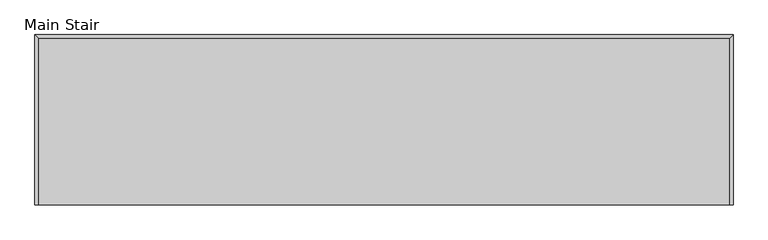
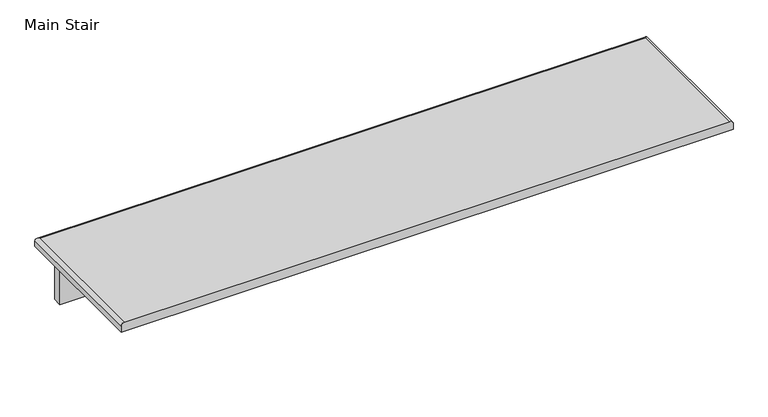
"""IFC4 building model written with IfcOpenShell, lengths in millimetres: stair flight geometry, Main Stair."""

from ifc_helpers import new_model, si_unit, frame, origin, place, context, project, spatial, circle_curve, ellipse_curve, faceted_brep, source, transform, mapped, element, save
from ifc_brep_helpers import plane_surface, cylinder_surface, advanced_brep


def main_stair_fb6af0a8(model_context):
    return source(origin(), model_context, "Body", "SolidModel", [
        advanced_brep(
        [(1502.7609037, -1195.6439898, -82.0928), (1509.1109037, -1195.6439898, -75.7428), (1509.1109037, -897.1939898, -75.7428), (1502.7609037, -890.8439898, -82.0928), (1502.7609037, -1195.6439898, -94.7928), (1502.7609037, -890.8439898, -94.7928), (2745.8242254, -897.1939898, -75.7428), (2752.1742254, -890.8439898, -82.0928), (2752.1742254, -890.8439898, -94.7928), (2745.8242254, -1195.6439898, -75.7428), (2752.1742254, -1195.6439898, -82.0928), (2752.1742254, -1195.6439898, -94.7928)],
        [
            (0, 1, circle_curve(frame((1509.1109037, -1195.6439898, -82.0928), z_axis=(0.0, 1.0, 0.0), x_axis=(1.0, 0.0, 0.0)), 6.35)),
            (1, 2),
            (2, 3, ellipse_curve(frame((1509.1109037, -897.1939898, -82.0928), z_axis=(-0.7071067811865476, -0.7071067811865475, 0.0), x_axis=(0.7071067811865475, -0.7071067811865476, 0.0)), 8.9802561, 6.35)),
            (3, 0),
            (4, 0),
            (3, 5),
            (5, 4),
            (2, 6),
            (6, 7, ellipse_curve(frame((2745.8242254, -897.1939898, -82.0928), z_axis=(-0.7071067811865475, 0.7071067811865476, 0.0), x_axis=(-0.7071067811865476, -0.7071067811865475, 0.0)), 8.9802561, 6.35)),
            (7, 3),
            (7, 8),
            (8, 5),
            (6, 9),
            (9, 10, circle_curve(frame((2745.8242254, -1195.6439898, -82.0928), z_axis=(0.0, 1.0, 0.0), x_axis=(-1.0, 0.0, 0.0)), 6.35)),
            (10, 7),
            (10, 11),
            (11, 8),
            (1, 9),
            (11, 4),
        ],
        [
            cylinder_surface(frame((1509.1109037, -1195.6439898, -82.0928), z_axis=(0.0, -1.0, 0.0), x_axis=(1.0, 0.0, 0.0)), 6.35),
            plane_surface(frame((1502.7609037, -1195.6439898, -82.0928), z_axis=(-1.0, 0.0, 0.0), x_axis=(0.0, 1.0, 0.0))),
            cylinder_surface(frame((1528.1609037, -897.1939898, -82.0928), z_axis=(-1.0, 0.0, 0.0), x_axis=(0.0, -1.0, 0.0)), 6.35),
            plane_surface(frame((1502.7609037, -890.8439898, -82.0928), z_axis=(0.0, 1.0, 0.0), x_axis=(1.0, 0.0, 0.0))),
            cylinder_surface(frame((2745.8242254, -916.2439898, -82.0928), z_axis=(0.0, 1.0, 0.0), x_axis=(-1.0, 0.0, 0.0)), 6.35),
            plane_surface(frame((2752.1742254, -890.8439898, -82.0928), z_axis=(1.0, 0.0, 0.0), x_axis=(0.0, -1.0, 0.0))),
            plane_surface(frame((2726.7742254, -890.8439898, -75.7428), z_axis=(0.0, 0.0, 1.0), x_axis=(0.0, 1.0, 0.0))),
            plane_surface(frame((2726.7742254, -890.8439898, -94.7928), z_axis=(0.0, 0.0, -1.0), x_axis=(0.0, -1.0, 0.0))),
            plane_surface(frame((1528.1609037, -1195.6439898, -75.7428), z_axis=(0.0, -1.0, 0.0), x_axis=(0.0, 0.0, -1.0))),
        ],
        [
            (0, [[1, 2, 3, 4]]),
            (1, [[5, -4, 6, 7]]),
            (2, [[-3, 8, 9, 10]]),
            (3, [[-6, -10, 11, 12]]),
            (4, [[-9, 13, 14, 15]]),
            (5, [[-11, -15, 16, 17]]),
            (6, [[-13, -8, -2, 18]]),
            (7, [[-7, -12, -17, 19]]),
            (8, [[-18, -1, -5, -19, -16, -14]]),
        ],
    ),
        faceted_brep([(1528.1609037, -916.2439898, -94.7928), (1528.1609037, -916.2439898, -202.5904), (1528.1609037, -935.2939898, -202.5904), (1528.1609037, -935.2939898, -94.7928), (2726.7742254, -916.2439898, -94.7928), (2726.7742254, -935.2939898, -94.7928), (2726.7742254, -935.2939898, -202.5904), (2726.7742254, -916.2439898, -202.5904)], [[[0, 1, 2, 3]], [[4, 5, 6, 7]], [[1, 0, 4, 7]], [[2, 1, 7, 6]], [[3, 2, 6, 5]], [[0, 3, 5, 4]]]),
    ])


if __name__ == "__main__":
    model = new_model("IFC4")
    model_context = context("Model", 3, world=origin())
    ifc_project = project(units=[si_unit("LENGTHUNIT", "METRE", prefix="MILLI")], contexts=[model_context])
    site = spatial("IfcSite", under=ifc_project)
    building = spatial("IfcBuilding", under=site)
    placement = place(None, origin())
    main_stair_shape = main_stair_fb6af0a8(model_context)
    element("IfcStairFlight", 1, ObjectType="Main Stair", at=placement, inside=building, context=model_context, shape_type="MappedRepresentation", body=[
        mapped(main_stair_shape, transform((0.0, 0.0, 0.0), x_axis=(1.0, 0.0, 0.0), y_axis=(0.0, 1.0, 0.0), z_axis=(0.0, 0.0, 1.0))),
    ])
    save(model, "model.ifc")
